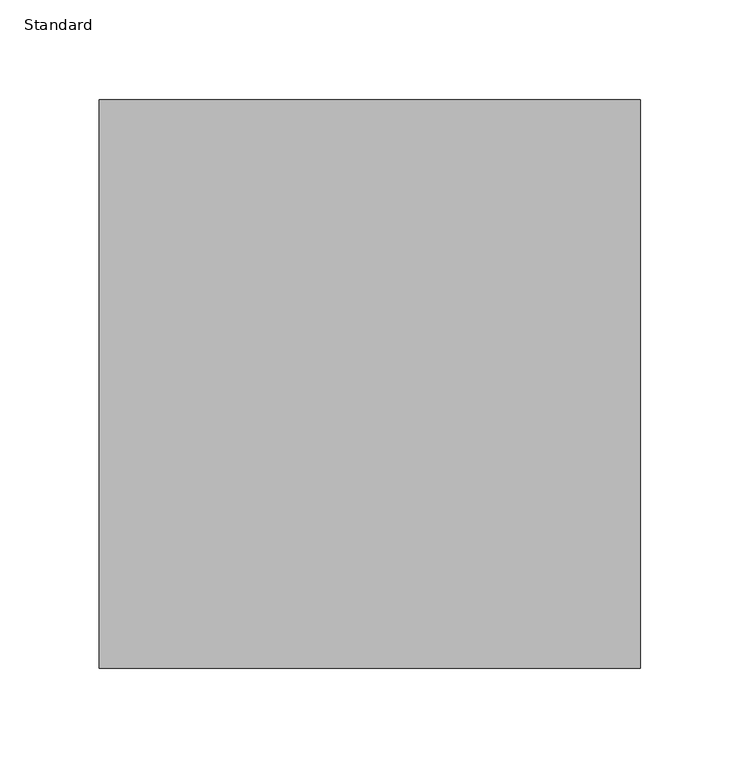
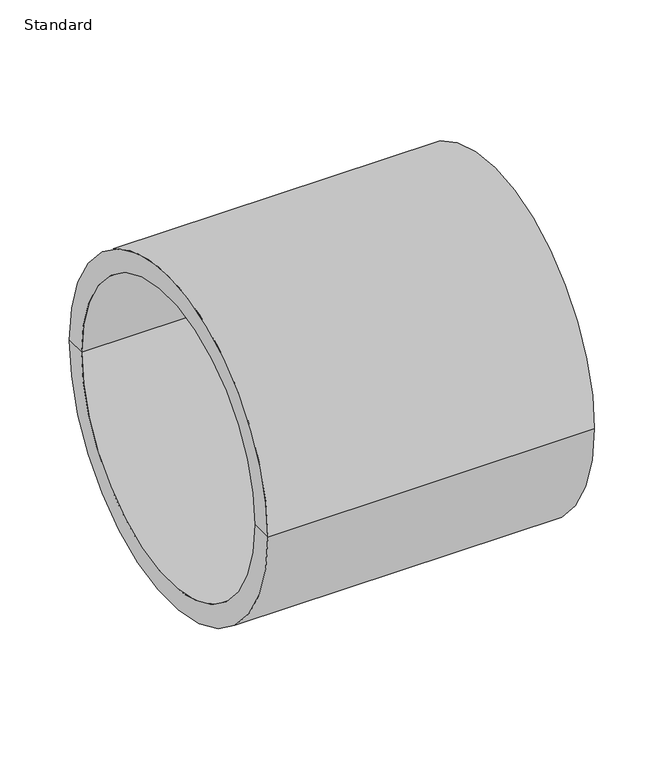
"""IFC4 building model written with IfcOpenShell, lengths in millimetres: pipe fitting geometry, Durapipe_PipeFitting_PVC_Socket : Standard."""

from ifc_helpers import new_model, si_unit, frame, origin, place, context, project, spatial, polyline, circle_curve, source, transform, mapped, element, save
from ifc_brep_helpers import plane_surface, cylinder_surface, revolved_surface, advanced_brep


def standard_7091a6f5(model_context):
    return source(origin(), model_context, "Body", "AdvancedBrep", [
        advanced_brep(
        [(-136.0, -143.0, 0.0), (-136.0, 143.0, 0.0), (136.0, 143.0, 0.0), (136.0, -143.0, 0.0), (-136.0, -125.0, 0.0), (-136.0, 125.0, 0.0), (5.0, -115.0, 0.0), (5.0, 115.0, 0.0), (-5.0, 115.0, 0.0), (-5.0, -115.0, 0.0), (136.0, 125.0, 0.0), (136.0, -125.0, 0.0), (-5.0, -125.0, 0.0), (-5.0, 125.0, 0.0), (5.0, -125.0, 0.0), (5.0, 125.0, 0.0)],
        [
            (0, 1, circle_curve(frame((-136.0, 0.0, 0.0), z_axis=(1.0, 0.0, 0.0), x_axis=(0.0, 1.0, 0.0)), 143.0)),
            (1, 2),
            (2, 3, circle_curve(frame((136.0, 0.0, 0.0), z_axis=(-1.0, 0.0, 0.0), x_axis=(0.0, 1.0, 0.0)), 143.0)),
            (3, 0),
            (1, 0, circle_curve(frame((-136.0, 0.0, 0.0), z_axis=(1.0, 0.0, 0.0), x_axis=(0.0, 1.0, 0.0)), 143.0)),
            (3, 2, circle_curve(frame((136.0, 0.0, 0.0), z_axis=(-1.0, 0.0, 0.0), x_axis=(0.0, 1.0, 0.0)), 143.0)),
            (4, 5, circle_curve(frame((-136.0, 0.0, 0.0), z_axis=(1.0, 0.0, 0.0), x_axis=(0.0, 1.0, 0.0)), 125.0)),
            (5, 1),
            (0, 4),
            (5, 4, circle_curve(frame((-136.0, 0.0, 0.0), z_axis=(1.0, 0.0, 0.0), x_axis=(0.0, 1.0, 0.0)), 125.0)),
            (6, 7, circle_curve(frame((5.0, 0.0, 0.0), z_axis=(1.0, 0.0, 0.0), x_axis=(0.0, 1.0, 0.0)), 115.0)),
            (7, 8),
            (8, 9, circle_curve(frame((-5.0, 0.0, 0.0), z_axis=(-1.0, 0.0, 0.0), x_axis=(0.0, 1.0, 0.0)), 115.0)),
            (9, 6),
            (7, 6, circle_curve(frame((5.0, 0.0, 0.0), z_axis=(1.0, 0.0, 0.0), x_axis=(0.0, 1.0, 0.0)), 115.0)),
            (9, 8, circle_curve(frame((-5.0, 0.0, 0.0), z_axis=(-1.0, 0.0, 0.0), x_axis=(0.0, 1.0, 0.0)), 115.0)),
            (2, 10),
            (10, 11, circle_curve(frame((136.0, 0.0, 0.0), z_axis=(-1.0, 0.0, 0.0), x_axis=(0.0, 1.0, 0.0)), 125.0)),
            (11, 3),
            (11, 10, circle_curve(frame((136.0, 0.0, 0.0), z_axis=(-1.0, 0.0, 0.0), x_axis=(0.0, 1.0, 0.0)), 125.0)),
            (12, 13, circle_curve(frame((-5.0, 0.0, 0.0), z_axis=(1.0, 0.0, 0.0), x_axis=(0.0, 1.0, 0.0)), 125.0)),
            (13, 5),
            (4, 12),
            (13, 12, circle_curve(frame((-5.0, 0.0, 0.0), z_axis=(1.0, 0.0, 0.0), x_axis=(0.0, 1.0, 0.0)), 125.0)),
            (8, 13),
            (12, 9),
            (14, 15, circle_curve(frame((5.0, 0.0, 0.0), z_axis=(1.0, 0.0, 0.0), x_axis=(0.0, 1.0, 0.0)), 125.0)),
            (15, 7),
            (6, 14),
            (15, 14, circle_curve(frame((5.0, 0.0, 0.0), z_axis=(1.0, 0.0, 0.0), x_axis=(0.0, 1.0, 0.0)), 125.0)),
            (10, 15),
            (14, 11),
        ],
        [
            cylinder_surface(frame((-136.0, 0.0, 0.0), z_axis=(-1.0, 0.0, 0.0), x_axis=(0.0, 1.0, 0.0)), 143.0),
            plane_surface(frame((-136.0, 0.0, 0.0), z_axis=(-1.0, 0.0, 0.0), x_axis=(0.0, 1.0, 0.0))),
            revolved_surface(polyline([(-5.0, 115.0, 0.0), (5.0, 115.0, 0.0)]), (-136.0, 0.0, 0.0), (-1.0, 0.0, 0.0)),
            plane_surface(frame((136.0, 0.0, 0.0), z_axis=(1.0, 0.0, 0.0), x_axis=(0.0, 1.0, 0.0))),
            revolved_surface(polyline([(-136.0, 125.0, 0.0), (-5.0, 125.0, 0.0)]), (-136.0, 0.0, 0.0), (-1.0, 0.0, 0.0)),
            plane_surface(frame((-5.0, 0.0, 0.0), z_axis=(-1.0, 0.0, 0.0), x_axis=(0.0, 1.0, 0.0))),
            plane_surface(frame((5.0, 0.0, 0.0), z_axis=(1.0, 0.0, 0.0), x_axis=(0.0, 1.0, 0.0))),
            revolved_surface(polyline([(5.0, 125.0, 0.0), (136.0, 125.0, 0.0)]), (-136.0, 0.0, 0.0), (-1.0, 0.0, 0.0)),
        ],
        [
            (0, [[1, 2, 3, 4]]),
            (0, [[5, -4, 6, -2]]),
            (1, [[7, 8, -1, 9]]),
            (1, [[10, -9, -5, -8]]),
            (2, [[11, 12, 13, 14]]),
            (2, [[15, -14, 16, -12]]),
            (3, [[-3, 17, 18, 19]]),
            (3, [[-6, -19, 20, -17]]),
            (4, [[21, 22, -7, 23]]),
            (4, [[24, -23, -10, -22]]),
            (5, [[-13, 25, -21, 26]]),
            (5, [[-16, -26, -24, -25]]),
            (6, [[27, 28, -11, 29]]),
            (6, [[30, -29, -15, -28]]),
            (7, [[-18, 31, -27, 32]]),
            (7, [[-20, -32, -30, -31]]),
        ],
    ),
    ])


if __name__ == "__main__":
    model = new_model("IFC4")
    model_context = context("Model", 3, world=origin())
    ifc_project = project(units=[si_unit("LENGTHUNIT", "METRE", prefix="MILLI")], contexts=[model_context])
    site = spatial("IfcSite", under=ifc_project)
    building = spatial("IfcBuilding", under=site)
    placement = place(None, origin())
    standard_shape = standard_7091a6f5(model_context)
    element("IfcPipeFitting", 1, ObjectType="Durapipe_PipeFitting_PVC_Socket : Standard", at=placement, inside=building, context=model_context, shape_type="MappedRepresentation", body=[
        mapped(standard_shape, transform((0.0, 0.0, 0.0), x_axis=(1.0, 0.0, 0.0), y_axis=(0.0, 1.0, 0.0), z_axis=(0.0, 0.0, 1.0))),
    ])
    save(model, "model.ifc")
